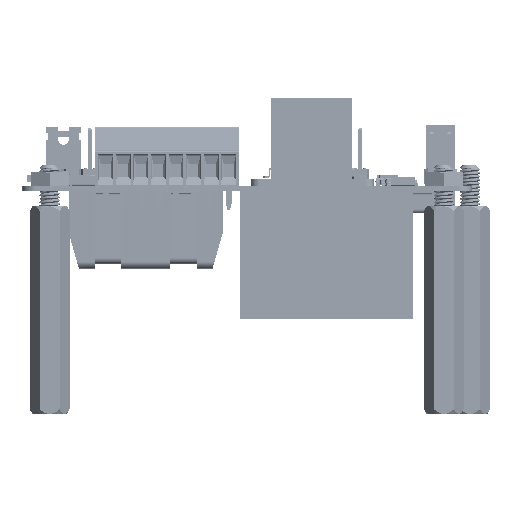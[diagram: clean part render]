
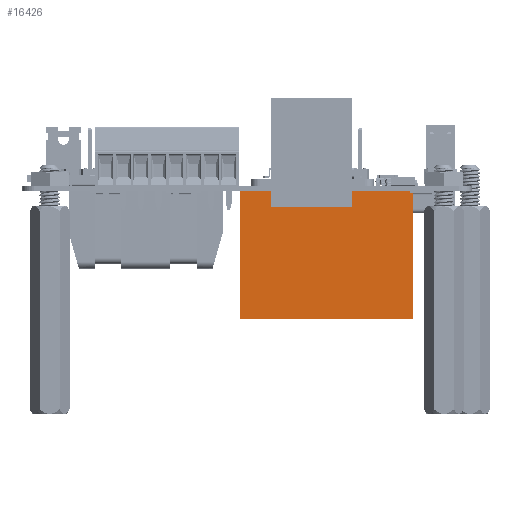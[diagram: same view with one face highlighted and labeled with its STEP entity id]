
A CAD part, front view. The second image highlights one B-rep face of the part: STEP entity #16426.
In plain terms, the highlighted planar face has unit normal (0, -1, 0).
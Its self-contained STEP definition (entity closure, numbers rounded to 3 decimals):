
#16328 = EDGE_CURVE('',#16329,#16331,#16333,.T.);
#16329 = VERTEX_POINT('',#16330);
#16330 = CARTESIAN_POINT('',(66.402,29.149,
    -19.298));
#16331 = VERTEX_POINT('',#16332);
#16332 = CARTESIAN_POINT('',(66.402,29.149,
    -0.338));
#16333 = LINE('',#16334,#16335);
#16334 = CARTESIAN_POINT('',(66.402,29.149,
    -19.298));
#16335 = VECTOR('',#16336,1.);
#16336 = DIRECTION('',(0.,0.,1.));
#16401 = VERTEX_POINT('',#16402);
#16402 = CARTESIAN_POINT('',(41.402,29.149,
    -0.338));
#16408 = EDGE_CURVE('',#16409,#16401,#16411,.T.);
#16409 = VERTEX_POINT('',#16410);
#16410 = CARTESIAN_POINT('',(41.402,29.149,
    -19.298));
#16411 = LINE('',#16412,#16413);
#16412 = CARTESIAN_POINT('',(41.402,29.149,
    -19.298));
#16413 = VECTOR('',#16414,1.);
#16414 = DIRECTION('',(0.,0.,1.));
#16426 = ADVANCED_FACE('',(#16427),#16443,.F.);
#16427 = FACE_BOUND('',#16428,.F.);
#16428 = EDGE_LOOP('',(#16429,#16430,#16436,#16437));
#16429 = ORIENTED_EDGE('',*,*,#16408,.T.);
#16430 = ORIENTED_EDGE('',*,*,#16431,.T.);
#16431 = EDGE_CURVE('',#16401,#16331,#16432,.T.);
#16432 = LINE('',#16433,#16434);
#16433 = CARTESIAN_POINT('',(41.402,29.149,
    -0.338));
#16434 = VECTOR('',#16435,1.);
#16435 = DIRECTION('',(1.,0.,0.));
#16436 = ORIENTED_EDGE('',*,*,#16328,.F.);
#16437 = ORIENTED_EDGE('',*,*,#16438,.F.);
#16438 = EDGE_CURVE('',#16409,#16329,#16439,.T.);
#16439 = LINE('',#16440,#16441);
#16440 = CARTESIAN_POINT('',(41.402,29.149,
    -19.298));
#16441 = VECTOR('',#16442,1.);
#16442 = DIRECTION('',(1.,0.,0.));
#16443 = PLANE('',#16444);
#16444 = AXIS2_PLACEMENT_3D('',#16445,#16446,#16447);
#16445 = CARTESIAN_POINT('',(41.402,29.149,
    -19.298));
#16446 = DIRECTION('',(0.,1.,0.));
#16447 = DIRECTION('',(1.,0.,0.));
